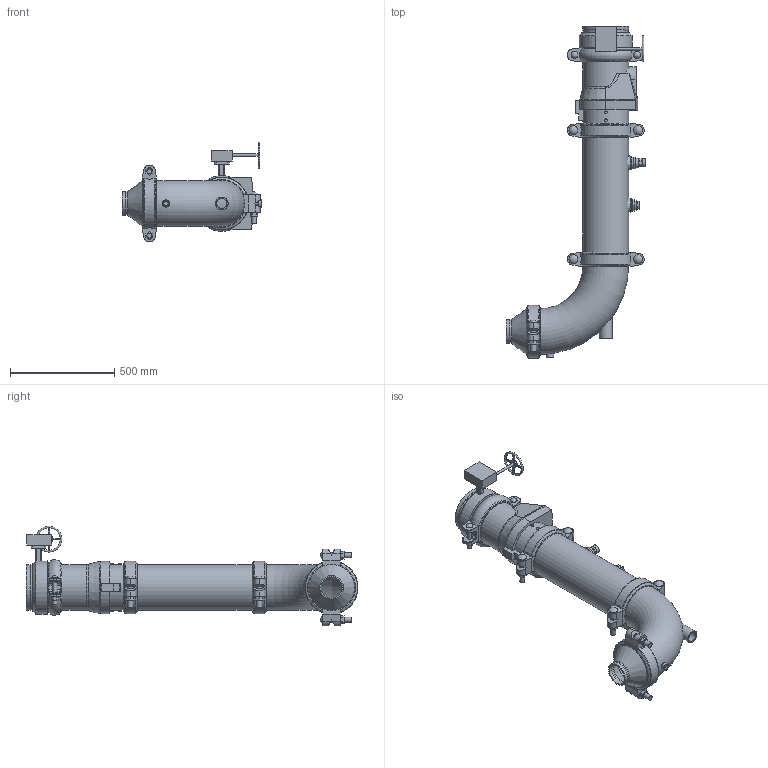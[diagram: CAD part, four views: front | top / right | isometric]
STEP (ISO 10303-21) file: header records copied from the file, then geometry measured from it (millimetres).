
FILE_DESCRIPTION(/* description */ ('VIC DVI PUMP DROP HORZ S/380G (OGSxOGS)','CAx-IF Rec.Pracs.---Representation and Presentation of Product Manufacturing Information (PMI)---4.0---2014-10-13'),/* implementation_level */ '2;1');
FILE_NAME(/* name */ 'C:\Users\kkamble\AppData\Roaming\Autodesk\ApplicationPlugins\Victaulic.Temp\A789\Victaulic_IPS_Horizontal DVI_CL 150_Series 380 (OGSxOGS)_924 (0.75)_08.0x04.0 (200x100).stp',/* time_stamp */ '2021-07-06T09:53:32+05:00',/* author */ ('Vjadhav'),/* organization */ ('Victaulic'),/* preprocessor_version */ 'ST-DEVELOPER v17.2',/* originating_system */ 'Autodesk Inventor 2019',/* authorisation */ '');
FILE_SCHEMA (('AP242_MANAGED_MODEL_BASED_3D_ENGINEERING_MIM_LF { 1 0 10303 442 1 1 4 }'));
Length unit declared in the file: inch
Products named in the file (10): 380_924 (0.75)-08.0x04.0; Pipe-08.0; 107N-08.0; 924-04.0x0.75; 923-04.0x0.75; 779-08.0; 761-08.0; 100G-08.0; 050-08.0x04.0; 177N-08.0
Assembly tree (11 placements, depth 2):
  380_924 (0.75)-08.0x04.0
    177N-08.0  x3
    Pipe-08.0
    107N-08.0
    924-04.0x0.75
    923-04.0x0.75
    779-08.0
    761-08.0
    100G-08.0
    050-08.0x04.0
Bounding box: 668.08 x 1588.66 x 477.26 mm (x, y, z)
Volume: 19792793.5 mm3; surface area: 3457591.3 mm2
Topology: 11 solids, 12 shells, 706 faces, 1843 edges, 1231 vertices
Faces by surface type: plane 391, cylinder 237, torus 28, cone 24, bspline 18, sphere 8
Full cylindrical faces by diameter (mm): 8.636 x4, 12.446 x1, 12.7 x1, 13.716 x4, 19.05 x4, 20.93 x1, 22.86 x1, 23.774 x6, 26.67 x4, 32.537 x2, 34.29 x1, 38.608 x1, 39.125 x1, 42.85 x6, 45.974 x4, 48.26 x1, 55.118 x1, 55.626 x2, 60.96 x1, 102.26 x1, 110.084 x1, 114.3 x2, 202.717 x6, 206.375 x4, 214.401 x9, 219.075 x23, 254 x1
Entity records: 18364 total; most frequent: CARTESIAN_POINT 4400, DIRECTION 2844, ORIENTED_EDGE 2666, EDGE_CURVE 1333, AXIS2_PLACEMENT_3D 1090, VERTEX_POINT 895, LINE 664, VECTOR 664
